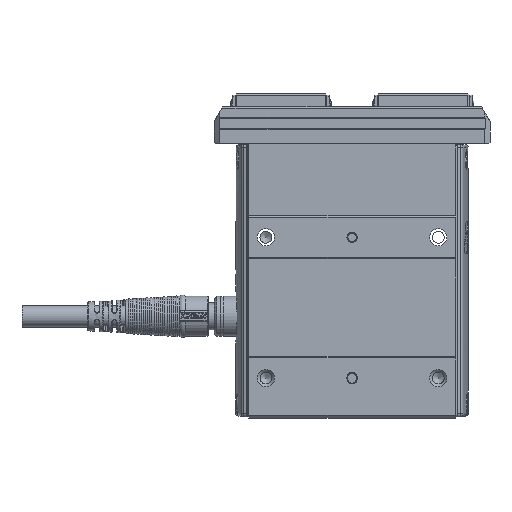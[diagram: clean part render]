
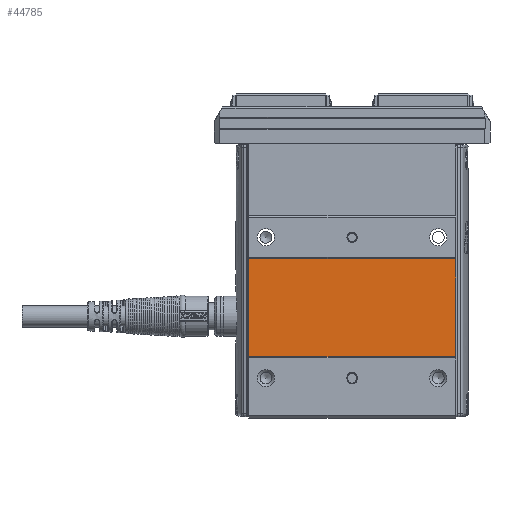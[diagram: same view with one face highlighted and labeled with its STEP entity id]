
A CAD part, front view. The second image highlights one B-rep face of the part: STEP entity #44785.
In plain terms, the highlighted planar face has unit normal (0, -1, 0).
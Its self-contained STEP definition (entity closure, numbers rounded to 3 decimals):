
#4868=PLANE('',#48905);
#6822=FACE_OUTER_BOUND('',#9412,.T.);
#9412=EDGE_LOOP('',(#37904,#37905,#37906,#37907));
#12436=LINE('',#83839,#15537);
#12437=LINE('',#83842,#15538);
#12438=LINE('',#83844,#15539);
#12439=LINE('',#83845,#15540);
#15537=VECTOR('',#58827,10.);
#15538=VECTOR('',#58830,10.);
#15539=VECTOR('',#58831,10.);
#15540=VECTOR('',#58832,10.);
#21960=VERTEX_POINT('',#83835);
#21961=VERTEX_POINT('',#83837);
#21962=VERTEX_POINT('',#83841);
#21963=VERTEX_POINT('',#83843);
#27548=EDGE_CURVE('',#21960,#21961,#12436,.T.);
#27549=EDGE_CURVE('',#21962,#21961,#12437,.T.);
#27550=EDGE_CURVE('',#21962,#21963,#12438,.T.);
#27551=EDGE_CURVE('',#21960,#21963,#12439,.T.);
#37904=ORIENTED_EDGE('',*,*,#27548,.T.);
#37905=ORIENTED_EDGE('',*,*,#27549,.F.);
#37906=ORIENTED_EDGE('',*,*,#27550,.T.);
#37907=ORIENTED_EDGE('',*,*,#27551,.F.);
#44785=ADVANCED_FACE('',(#6822),#4868,.T.);
#48905=AXIS2_PLACEMENT_3D('',#83840,#58828,#58829);
#58827=DIRECTION('',(-1.,0.,0.));
#58828=DIRECTION('center_axis',(0.,-1.,0.));
#58829=DIRECTION('ref_axis',(0.,0.,
-1.));
#58830=DIRECTION('',(0.,0.,1.));
#58831=DIRECTION('',(1.,0.,0.));
#58832=DIRECTION('',(0.,0.,-1.));
#83835=CARTESIAN_POINT('',(36.,-21.,-28.5));
#83837=CARTESIAN_POINT('',(-36.,-21.,-28.5));
#83839=CARTESIAN_POINT('',(0.,-21.,-28.5));
#83840=CARTESIAN_POINT('Origin',(0.,-21.,17.5));
#83841=CARTESIAN_POINT('',(-36.,-21.,-62.5));
#83842=CARTESIAN_POINT('',(-36.,-21.,17.5));
#83843=CARTESIAN_POINT('',(36.,-21.,-62.5));
#83844=CARTESIAN_POINT('',(0.,-21.,-62.5));
#83845=CARTESIAN_POINT('',(36.,-21.,17.5));
